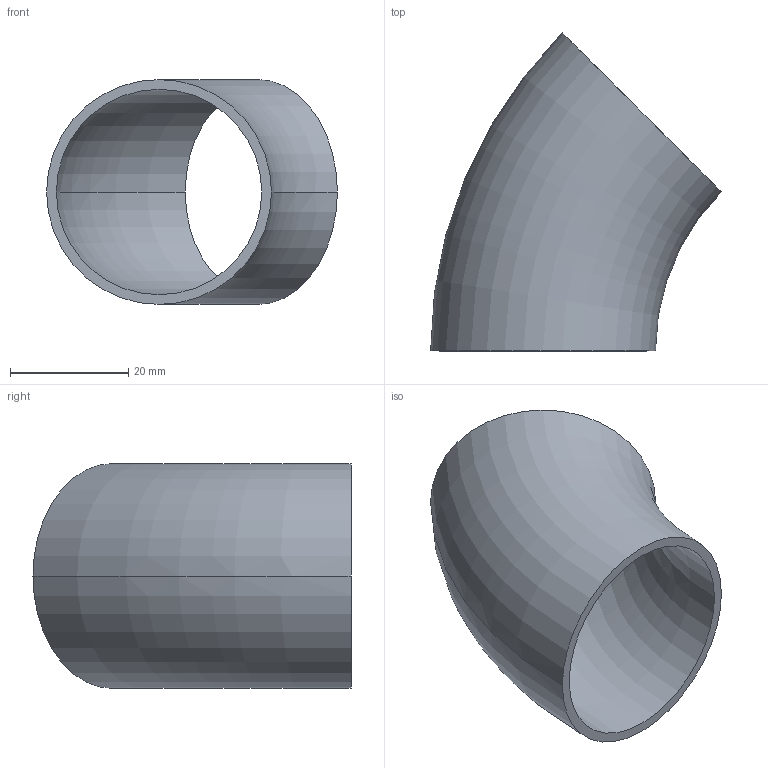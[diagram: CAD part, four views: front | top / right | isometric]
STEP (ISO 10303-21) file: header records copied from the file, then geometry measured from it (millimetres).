
FILE_DESCRIPTION (( 'STEP AP203' ), '1' );
FILE_NAME ('E2WK1.5.STEP', '2018-04-30T18:12:15', ( 'vneprd' ), ( 'Microsoft' ), 'SwSTEP 2.0', 'SolidWorks 2014', '' );
FILE_SCHEMA (( 'CONFIG_CONTROL_DESIGN' ));
Length unit declared in the file: inch
Products named in the file (1): E2WK1.5
Bounding box: 49.26 x 53.88 x 38.1 mm (x, y, z)
Volume: 8485.7 mm3; surface area: 10657.6 mm2
Topology: 1 solids, 1 shells, 6 faces, 12 edges, 8 vertices
Faces by surface type: torus 4, plane 2
Entity records: 251 total; most frequent: DIRECTION 38, CARTESIAN_POINT 27, ORIENTED_EDGE 24, AXIS2_PLACEMENT_3D 19, CIRCLE 12, EDGE_CURVE 12, PERSON_AND_ORGANIZATION 8, EDGE_LOOP 8
